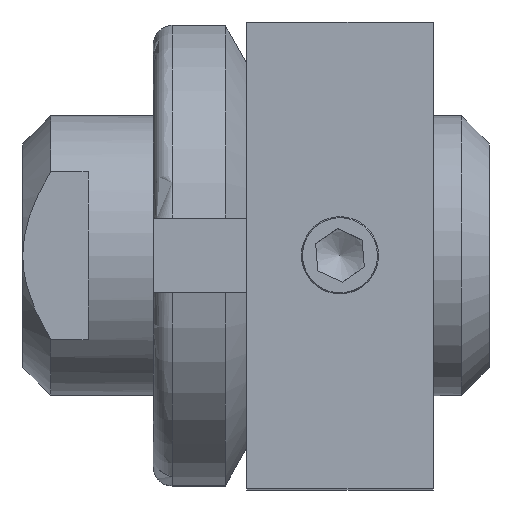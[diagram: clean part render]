
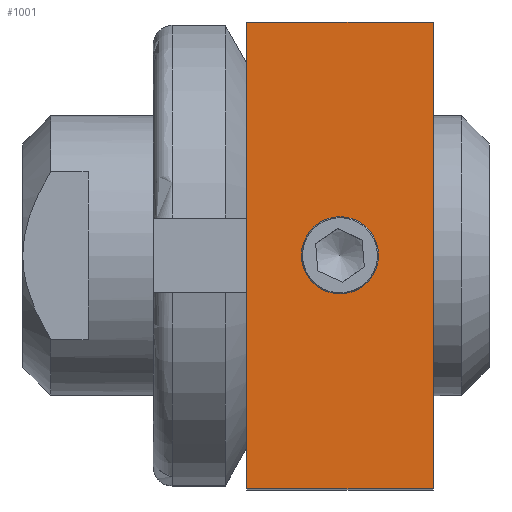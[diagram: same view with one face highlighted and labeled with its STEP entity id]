
A CAD part, top view. The second image highlights one B-rep face of the part: STEP entity #1001.
In plain terms, the highlighted planar face has unit normal (0, 0, 1).
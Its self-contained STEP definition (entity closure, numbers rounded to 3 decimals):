
#69=LINE('',#1520,#131);
#73=LINE('',#1532,#135);
#77=LINE('',#1542,#139);
#79=LINE('',#1545,#141);
#131=VECTOR('',#1199,25.);
#135=VECTOR('',#1209,25.);
#139=VECTOR('',#1219,10.);
#141=VECTOR('',#1223,10.);
#197=PLANE('',#1081);
#250=FACE_BOUND('',#389,.T.);
#251=FACE_BOUND('',#390,.T.);
#271=CIRCLE('',#1065,2.067);
#389=EDGE_LOOP('',(#734));
#390=EDGE_LOOP('',(#735,#736,#737,#738));
#469=VERTEX_POINT('',#1504);
#474=VERTEX_POINT('',#1518);
#475=VERTEX_POINT('',#1519);
#479=VERTEX_POINT('',#1530);
#480=VERTEX_POINT('',#1531);
#567=EDGE_CURVE('',#469,#469,#271,.T.);
#572=EDGE_CURVE('',#474,#475,#69,.T.);
#577=EDGE_CURVE('',#479,#480,#73,.T.);
#582=EDGE_CURVE('',#480,#474,#77,.T.);
#584=EDGE_CURVE('',#475,#479,#79,.T.);
#734=ORIENTED_EDGE('',*,*,#567,.T.);
#735=ORIENTED_EDGE('',*,*,#577,.F.);
#736=ORIENTED_EDGE('',*,*,#584,.F.);
#737=ORIENTED_EDGE('',*,*,#572,.F.);
#738=ORIENTED_EDGE('',*,*,#582,.F.);
#1001=ADVANCED_FACE('',(#250,#251),#197,.T.);
#1065=AXIS2_PLACEMENT_3D('',#1505,#1181,#1182);
#1081=AXIS2_PLACEMENT_3D('',#1547,#1225,#1226);
#1181=DIRECTION('center_axis',(0.,0.,-1.));
#1182=DIRECTION('ref_axis',(1.,0.,0.));
#1199=DIRECTION('',(0.,1.,0.));
#1209=DIRECTION('',(0.,-1.,0.));
#1219=DIRECTION('',(-1.,0.,0.));
#1223=DIRECTION('',(1.,0.,0.));
#1225=DIRECTION('center_axis',(0.,0.,1.));
#1226=DIRECTION('ref_axis',(1.,0.,0.));
#1504=CARTESIAN_POINT('',(2.067,0.,45.));
#1505=CARTESIAN_POINT('Origin',(0.,0.,45.));
#1518=CARTESIAN_POINT('',(-5.,-12.5,45.));
#1519=CARTESIAN_POINT('',(-5.,12.5,45.));
#1520=CARTESIAN_POINT('',(-5.,-12.5,45.));
#1530=CARTESIAN_POINT('',(5.,12.5,45.));
#1531=CARTESIAN_POINT('',(5.,-12.5,45.));
#1532=CARTESIAN_POINT('',(5.,12.5,45.));
#1542=CARTESIAN_POINT('',(5.,-12.5,45.));
#1545=CARTESIAN_POINT('',(-5.,12.5,45.));
#1547=CARTESIAN_POINT('Origin',(0.,0.,45.));
